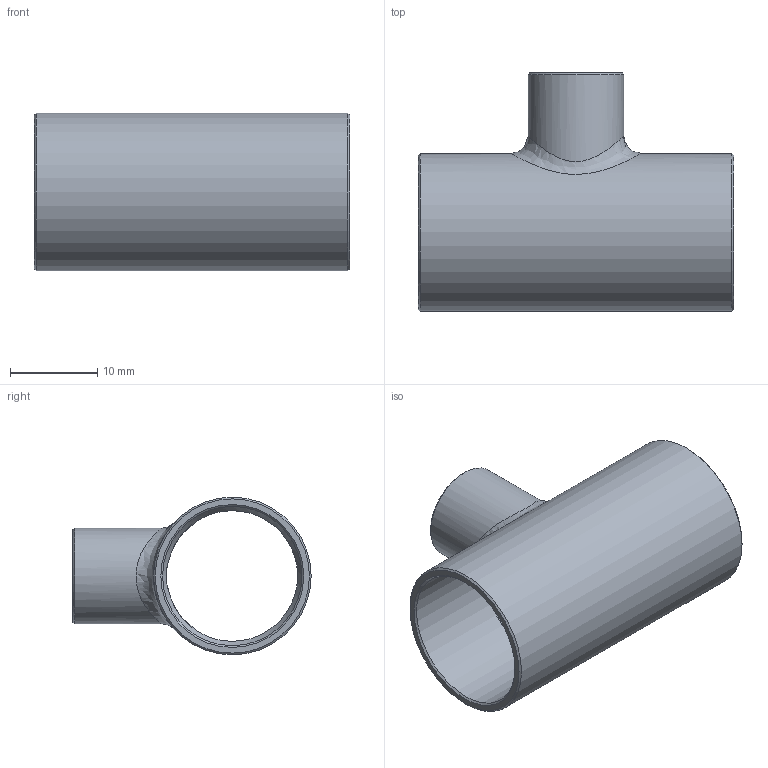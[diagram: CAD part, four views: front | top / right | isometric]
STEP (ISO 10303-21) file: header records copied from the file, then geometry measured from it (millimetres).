
FILE_DESCRIPTION((''),'2;1');
FILE_NAME('G:\SANHA-Ternat\Technik\Management\Bouwmaten + markeringen\z-maattekeningen 3D\29000s\29130583858_3d.stp','2017-07-31T15:39:09',('vdvijverd'),(''),'Autodesk Inventor 2009','Autodesk Inventor 2009','');
FILE_SCHEMA(('AUTOMOTIVE_DESIGN { 1 0 10303 214 1 1 1 1 }'));
Length unit declared in the file: millimetre
Products named in the file (1): 29130583858_3d
Bounding box: 36.2 x 27.35 x 18.1 mm (x, y, z)
Volume: 2484.9 mm3; surface area: 4460.6 mm2
Topology: 1 solids, 1 shells, 22 faces, 56 edges, 35 vertices
Faces by surface type: cone 8, cylinder 7, bspline 4, plane 3
Full cylindrical faces by diameter (mm): 9.645 x1, 11 x1, 15.995 x1, 18.1 x1
Entity records: 1837 total; most frequent: CARTESIAN_POINT 1396, DIRECTION 80, ORIENTED_EDGE 70, AXIS2_PLACEMENT_3D 40, EDGE_LOOP 40, EDGE_CURVE 35, VERTEX_POINT 29, FACE_OUTER_BOUND 22
